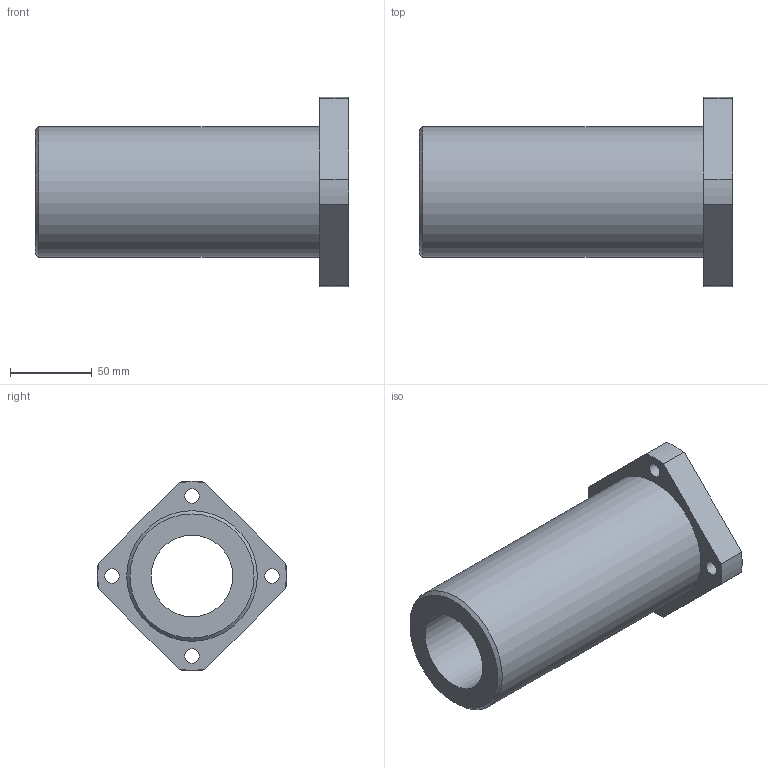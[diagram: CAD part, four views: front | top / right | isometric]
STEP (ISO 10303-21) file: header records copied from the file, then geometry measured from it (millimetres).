
FILE_DESCRIPTION(('STEP AP203'),'1');
FILE_NAME('//192.168.1.1/share/s-4 技術開発/s-4-4_CAD/s-4-4-3_見直し済み/PBC LINEAR修正済み/DFPJ/DFPJ_TOP/DFPJ/DFPJ50.step','2022-03-24T05:02:57',(' '),(' '),'Spatial InterOp 3D',' ',' ');
FILE_SCHEMA(('CONFIG_CONTROL_DESIGN'));
Length unit declared in the file: millimetre
Products named in the file (1): 1
Bounding box: 192 x 115.89 x 115.89 mm (x, y, z)
Volume: 638232 mm3; surface area: 94369.8 mm2
Topology: 1 solids, 1 shells, 34 faces, 85 edges, 58 vertices
Faces by surface type: cylinder 14, plane 11, cone 9
Full cylindrical faces by diameter (mm): 9 x4, 14 x4, 50 x1, 80 x1
Entity records: 1018 total; most frequent: CARTESIAN_POINT 205, DIRECTION 160, ORIENTED_EDGE 138, AXIS2_PLACEMENT_3D 72, EDGE_CURVE 69, EDGE_LOOP 60, VERTEX_POINT 53, FACE_OUTER_BOUND 44
